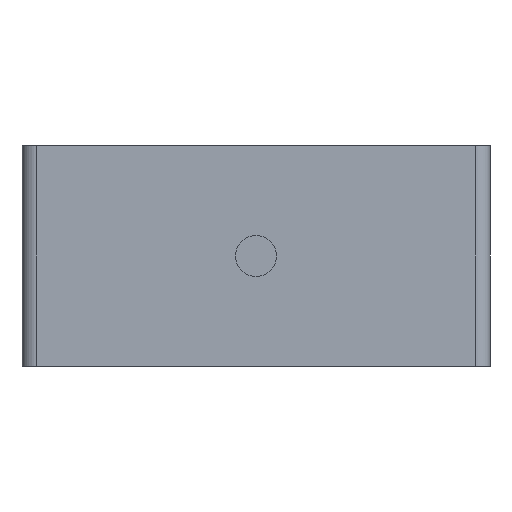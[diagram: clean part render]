
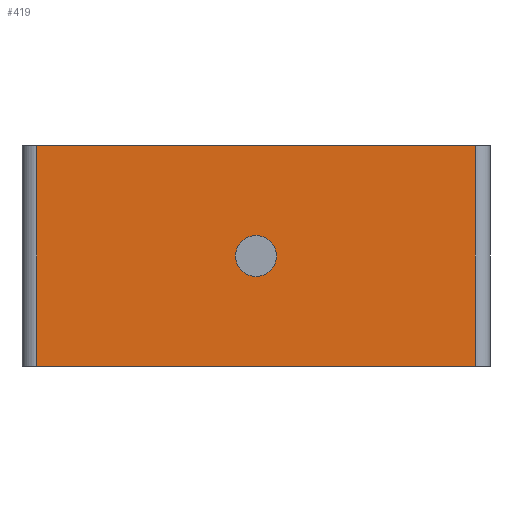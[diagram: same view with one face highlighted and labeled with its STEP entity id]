
A CAD part, left-side view. The second image highlights one B-rep face of the part: STEP entity #419.
In plain terms, the highlighted planar face has unit normal (-1, 0, 0).
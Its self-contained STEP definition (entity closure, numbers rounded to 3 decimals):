
#17=FACE_BOUND('',#80,.T.);
#33=PLANE('',#467);
#55=FACE_OUTER_BOUND('',#79,.T.);
#79=EDGE_LOOP('',(#387,#388,#389,#390));
#80=EDGE_LOOP('',(#391));
#87=CIRCLE('',#449,4.15);
#104=LINE('',#616,#149);
#109=LINE('',#628,#154);
#115=LINE('',#641,#160);
#137=LINE('',#699,#182);
#149=VECTOR('',#495,10.);
#154=VECTOR('',#506,10.);
#160=VECTOR('',#516,10.);
#182=VECTOR('',#580,10.);
#195=VERTEX_POINT('',#613);
#196=VERTEX_POINT('',#615);
#200=VERTEX_POINT('',#627);
#205=VERTEX_POINT('',#640);
#208=VERTEX_POINT('',#650);
#235=EDGE_CURVE('',#195,#196,#104,.T.);
#241=EDGE_CURVE('',#200,#196,#109,.T.);
#248=EDGE_CURVE('',#200,#205,#115,.T.);
#253=EDGE_CURVE('',#208,#208,#87,.T.);
#277=EDGE_CURVE('',#195,#205,#137,.T.);
#387=ORIENTED_EDGE('',*,*,#235,.F.);
#388=ORIENTED_EDGE('',*,*,#277,.T.);
#389=ORIENTED_EDGE('',*,*,#248,.F.);
#390=ORIENTED_EDGE('',*,*,#241,.T.);
#391=ORIENTED_EDGE('',*,*,#253,.T.);
#419=ADVANCED_FACE('',(#55,#17),#33,.F.);
#449=AXIS2_PLACEMENT_3D('',#651,#526,#527);
#467=AXIS2_PLACEMENT_3D('',#700,#581,#582);
#495=DIRECTION('',(0.,0.,1.));
#506=DIRECTION('',(0.,1.,0.));
#516=DIRECTION('',(0.,0.,-1.));
#526=DIRECTION('center_axis',(1.,0.,0.));
#527=DIRECTION('ref_axis',(0.,-1.,0.));
#580=DIRECTION('',(0.,-1.,0.));
#581=DIRECTION('center_axis',(1.,0.,0.));
#582=DIRECTION('ref_axis',(0.,1.,0.));
#613=CARTESIAN_POINT('',(4.,44.25,-22.25));
#615=CARTESIAN_POINT('',(4.,44.25,22.25));
#616=CARTESIAN_POINT('',(4.,44.25,-11.125));
#627=CARTESIAN_POINT('',(4.,-44.25,22.25));
#628=CARTESIAN_POINT('',(4.,-47.25,22.25));
#640=CARTESIAN_POINT('',(4.,-44.25,-22.25));
#641=CARTESIAN_POINT('',(4.,-44.25,11.125));
#650=CARTESIAN_POINT('',(4.,4.15,0.));
#651=CARTESIAN_POINT('Origin',(4.,0.,0.));
#699=CARTESIAN_POINT('',(4.,47.25,-22.25));
#700=CARTESIAN_POINT('Origin',(4.,0.,0.));
